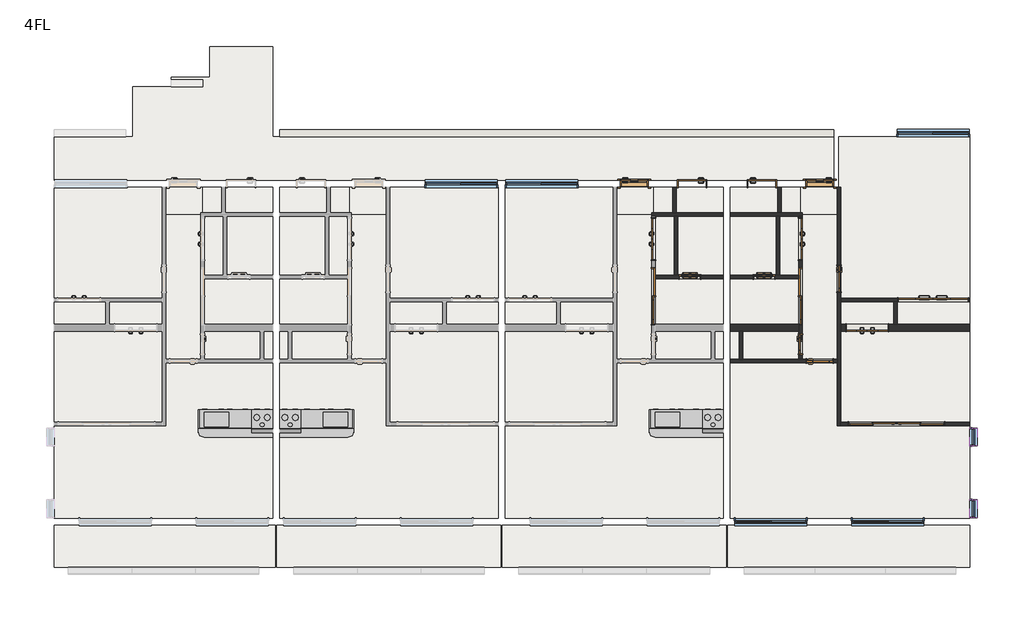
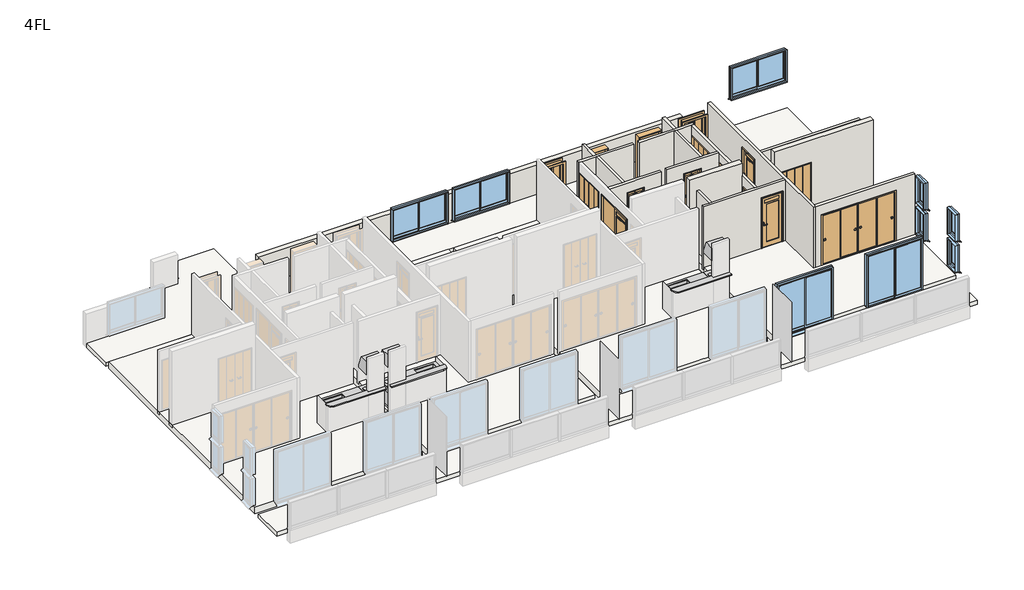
# One storey, part 3 of 3: 18 walls, 16 doors, 14 slabs, 9 windows, 3 flow terminals, 3 furniture elements.
"""IFC4 building model written with IfcOpenShell, lengths in millimetres."""

from ifc_helpers import new_model, si_unit, frame, origin, place, context, project, spatial, polyline, outline, extrude, faceted_brep, transform, mapped, element, save
from components import door_800x2000_a7d1584b, door_800x2000_010bfebf, w1200h2000_6a144d60, w1200h2000_99d19fb3, w1200h2000_ebe1d490, w1600h2000_4c3c234a, w1600h2000_ca690e72, w2000h2000_5dbb6d6a, w2800h2000_04aa64cd, w600h2000_6a266bef, w600h2000_94bb9c3c, w600h2000_8ea70a65, w800h2000_1d97c4d4, w800h2000_13e9f519, w800h2000_ccb03061, w800h2000_0ab7d42c, flow_terminal_5276808d, flow_terminal_b13850ba, furniture_3a0496f9, furniture_dadabe7c, window_2000x1200_fc91d1cf, window_2000x2000_f1ff98da, window_450x1000_1cddc73c

model = new_model("IFC4")

# Units and contexts
model_context = context("Model", 3, world=origin())
ifc_project = project(units=[si_unit("LENGTHUNIT", "METRE", prefix="MILLI")], contexts=[model_context])

# Site, building, storey
site = spatial("IfcSite", under=ifc_project)
building = spatial("IfcBuilding", under=site)
storey = spatial("IfcBuildingStorey", under=building, Name="4FL", Elevation=10000.0)

# Doors
placement = place(None, origin())
door_800x2000_shape = door_800x2000_a7d1584b(model_context)
element("IfcDoor", 1, ObjectType="片開き3 : 800x2000", at=placement, inside=storey, context=model_context, shape_type="MappedRepresentation", body=[
    mapped(door_800x2000_shape, transform((5521.2812754, -5700.1171638, 10000.0), x_axis=(1.0, 0.0, 0.0), y_axis=(0.0, 1.0, 0.0), z_axis=(0.0, 0.0, 1.0))),
])
door_800x2000_2_shape = door_800x2000_010bfebf(model_context)
element("IfcDoor", 2, ObjectType="片開き3 : 800x2000", at=placement, inside=storey, context=model_context, shape_type="MappedRepresentation", body=[
    mapped(door_800x2000_2_shape, transform((10821.2812754, -5700.1171638, 10000.0), x_axis=(-1.0, 0.0, 0.0), y_axis=(0.0, -1.0, 0.0), z_axis=(0.0, 0.0, 1.0))),
])
w1200h2000_shape = w1200h2000_6a144d60(model_context)
element("IfcDoor", 3, ObjectType="木製折戸 : w1200h2000", at=placement, inside=storey, context=model_context, shape_type="MappedRepresentation", body=[
    mapped(w1200h2000_shape, transform((6071.2812754, -7280.1171638, 10100.0), x_axis=(0.0, 1.0, 0.0), y_axis=(-1.0, 0.0, 0.0), z_axis=(0.0, 0.0, 1.0))),
])
w1200h2000_2_shape = w1200h2000_99d19fb3(model_context)
element("IfcDoor", 4, ObjectType="木製折戸 : w1200h2000", at=placement, inside=storey, context=model_context, shape_type="MappedRepresentation", body=[
    mapped(w1200h2000_2_shape, transform((10271.2812754, -7280.1171638, 10100.0), x_axis=(0.0, 1.0, 0.0), y_axis=(-1.0, 0.0, 0.0), z_axis=(0.0, 0.0, 1.0))),
])
w1200h2000_3_shape = w1200h2000_ebe1d490(model_context)
element("IfcDoor", 5, ObjectType="木製折戸 : w1200h2000", at=placement, inside=storey, context=model_context, shape_type="MappedRepresentation", body=[
    mapped(w1200h2000_3_shape, transform((12183.7812754, -9820.1171638, 10100.0), x_axis=(1.0, 0.0, 0.0), y_axis=(0.0, 1.0, 0.0), z_axis=(0.0, 0.0, 1.0))),
])
w1600h2000_shape = w1600h2000_4c3c234a(model_context)
element("IfcDoor", 6, ObjectType="片引戸CL2017 : w1600h2000", at=placement, inside=storey, context=model_context, shape_type="MappedRepresentation", body=[
    mapped(w1600h2000_shape, transform((6071.2812754, -8920.1171638, 10100.0), x_axis=(0.0, -1.0, 0.0), y_axis=(1.0, 0.0, 0.0), z_axis=(0.0, 0.0, 1.0))),
])
w1600h2000_2_shape = w1600h2000_ca690e72(model_context)
element("IfcDoor", 7, ObjectType="片引戸CL2017 : w1600h2000", at=placement, inside=storey, context=model_context, shape_type="MappedRepresentation", body=[
    mapped(w1600h2000_2_shape, transform((10271.2812754, -8920.1171638, 10100.0), x_axis=(0.0, -1.0, 0.0), y_axis=(1.0, 0.0, 0.0), z_axis=(0.0, 0.0, 1.0))),
])
w2000h2000_shape = w2000h2000_5dbb6d6a(model_context)
element("IfcDoor", 8, ObjectType="木製折戸 : w2000h2000", at=placement, inside=storey, context=model_context, shape_type="MappedRepresentation", body=[
    mapped(w2000h2000_shape, transform((14066.2812754, -9020.1171638, 10100.0), x_axis=(-1.0, 0.0, 0.0), y_axis=(0.0, -1.0, 0.0), z_axis=(0.0, 0.0, 1.0))),
])
w2800h2000_shape = w2800h2000_04aa64cd(model_context)
element("IfcDoor", 9, ObjectType="引違い 4 枚 2 溝_襖 : w2800h2000", at=placement, inside=storey, context=model_context, shape_type="MappedRepresentation", body=[
    mapped(w2800h2000_shape, transform((13026.8167793, -12570.1171638, 10100.0), x_axis=(1.0, 0.0, 0.0), y_axis=(0.0, 1.0, 0.0), z_axis=(0.0, 0.0, 1.0))),
])
w600h2000_shape = w600h2000_6a266bef(model_context)
element("IfcDoor", 10, ObjectType="浴室折戸 : w600h2000", at=placement, inside=storey, context=model_context, shape_type="MappedRepresentation", body=[
    mapped(w600h2000_shape, transform((7111.2812754, -8370.1171638, 10100.0), x_axis=(1.0, 0.0, 0.0), y_axis=(0.0, 1.0, 0.0), z_axis=(0.0, 0.0, 1.0))),
])
w600h2000_2_shape = w600h2000_94bb9c3c(model_context)
element("IfcDoor", 11, ObjectType="浴室折戸 : w600h2000", at=placement, inside=storey, context=model_context, shape_type="MappedRepresentation", body=[
    mapped(w600h2000_2_shape, transform((9231.2812754, -8370.1171638, 10100.0), x_axis=(-1.0, 0.0, 0.0), y_axis=(0.0, -1.0, 0.0), z_axis=(0.0, 0.0, 1.0))),
])
w600h2000_3_shape = w600h2000_8ea70a65(model_context)
element("IfcDoor", 12, ObjectType="片開戸CL2058 : w600h2000", at=placement, inside=storey, context=model_context, shape_type="MappedRepresentation", body=[
    mapped(w600h2000_3_shape, transform((10271.2812754, -10295.1171638, 10100.0), x_axis=(0.0, -1.0, 0.0), y_axis=(1.0, 0.0, 0.0), z_axis=(0.0, 0.0, 1.0))),
])
w800h2000_shape = w800h2000_1d97c4d4(model_context)
element("IfcDoor", 13, ObjectType="片開 : w800h2000", at=placement, inside=storey, context=model_context, shape_type="MappedRepresentation", body=[
    mapped(w800h2000_shape, transform((7171.2812754, -5700.1171638, 10000.0), x_axis=(-1.0, 0.0, 0.0), y_axis=(0.0, -1.0, 0.0), z_axis=(0.0, 0.0, 1.0))),
])
w800h2000_2_shape = w800h2000_13e9f519(model_context)
element("IfcDoor", 14, ObjectType="片開戸CL2058 : w800h2000", at=placement, inside=storey, context=model_context, shape_type="MappedRepresentation", body=[
    mapped(w800h2000_2_shape, transform((10821.2812754, -10770.1171638, 10100.0), x_axis=(1.0, 0.0, 0.0), y_axis=(0.0, 1.0, 0.0), z_axis=(0.0, 0.0, 1.0))),
])
w800h2000_3_shape = w800h2000_ccb03061(model_context)
element("IfcDoor", 15, ObjectType="片開戸CL2058 : w800h2000", at=placement, inside=storey, context=model_context, shape_type="MappedRepresentation", body=[
    mapped(w800h2000_3_shape, transform((11371.2812754, -8420.1171638, 10100.0), x_axis=(0.0, -1.0, 0.0), y_axis=(1.0, 0.0, 0.0), z_axis=(0.0, 0.0, 1.0))),
])
w800h2000_4_shape = w800h2000_0ab7d42c(model_context)
element("IfcDoor", 16, ObjectType="片開 : w800h2000", at=placement, inside=storey, context=model_context, shape_type="MappedRepresentation", body=[
    mapped(w800h2000_4_shape, transform((9171.2812754, -5700.1171638, 10000.0), x_axis=(1.0, 0.0, 0.0), y_axis=(0.0, 1.0, 0.0), z_axis=(0.0, 0.0, 1.0))),
])

# Flow terminals
flow_terminal_shape = flow_terminal_5276808d(model_context)
element("IfcFlowTerminal", 17, ObjectType="システムキッチンIH : システムキッチンIH", at=placement, inside=storey, context=model_context, shape_type="MappedRepresentation", body=[
    mapped(flow_terminal_shape, transform((-4828.7187246, -12720.1171638, 10200.0), x_axis=(1.0, 0.0, 0.0), y_axis=(0.0, 1.0, 0.0), z_axis=(0.0, 0.0, 1.0))),
])
element("IfcFlowTerminal", 18, ObjectType="システムキッチンIH : システムキッチンIH", at=placement, inside=storey, context=model_context, shape_type="MappedRepresentation", body=[
    mapped(flow_terminal_shape, transform((8071.2812754, -12720.1171638, 10200.0), x_axis=(1.0, 0.0, 0.0), y_axis=(0.0, 1.0, 0.0), z_axis=(0.0, 0.0, 1.0))),
])
flow_terminal_2_shape = flow_terminal_b13850ba(model_context)
element("IfcFlowTerminal", 19, ObjectType="システムキッチンIH : システムキッチンIH", at=placement, inside=storey, context=model_context, shape_type="MappedRepresentation", body=[
    mapped(flow_terminal_2_shape, transform((-4628.7187246, -12720.1171638, 10200.0), x_axis=(-1.0, 0.0, 0.0), y_axis=(0.0, -1.0, 0.0), z_axis=(0.0, 0.0, 1.0))),
])

# Furniture
furniture_shape = furniture_3a0496f9(model_context)
element("IfcFurniture", 20, ObjectType="キッチンカウンター : キッチンカウンター", at=placement, inside=storey, context=model_context, shape_type="MappedRepresentation", body=[
    mapped(furniture_shape, transform((-4628.7187246, -12820.1171638, 10100.0), x_axis=(-1.0, 0.0, 0.0), y_axis=(0.0, -1.0, 0.0), z_axis=(0.0, 0.0, 1.0))),
])
furniture_2_shape = furniture_dadabe7c(model_context)
element("IfcFurniture", 21, ObjectType="キッチンカウンター : キッチンカウンター", at=placement, inside=storey, context=model_context, shape_type="MappedRepresentation", body=[
    mapped(furniture_2_shape, transform((-4828.7187246, -12820.1171638, 10100.0), x_axis=(1.0, 0.0, 0.0), y_axis=(0.0, 1.0, 0.0), z_axis=(0.0, 0.0, 1.0))),
])
element("IfcFurniture", 22, ObjectType="キッチンカウンター : キッチンカウンター", at=placement, inside=storey, context=model_context, shape_type="MappedRepresentation", body=[
    mapped(furniture_2_shape, transform((8071.2812754, -12820.1171638, 10100.0), x_axis=(1.0, 0.0, 0.0), y_axis=(0.0, 1.0, 0.0), z_axis=(0.0, 0.0, 1.0))),
])

# Slabs
element("IfcSlab", 23, ObjectType="RC150＋100", at=placement, inside=storey, context=model_context, shape_type="SweptSolid", body=[
    extrude(outline(polyline([(-4828.7187246, -15270.1171638), (-11078.7187246, -15270.1171638), (-11078.7187246, -5800.1171638), (-7928.7187246, -5800.1171638), (-7928.7187246, -6580.1171638), (-6828.7187246, -6580.1171638), (-6828.7187246, -5800.1171638), (-4828.7187246, -5800.1171638), (-4828.7187246, -6580.1171638), (-6188.7187246, -6580.1171638), (-6188.7187246, -8370.1171638), (-4828.7187246, -8370.1171638), (-4828.7187246, -15270.1171638)])), frame((0.0, 0.0, 9850.0), z_axis=(0.0, 0.0, 1.0), x_axis=(1.0, 0.0, 0.0)), (0.0, 0.0, 1.0), 250.0),
])
element("IfcSlab", 24, ObjectType="RC150＋100", at=placement, inside=storey, context=model_context, shape_type="SweptSolid", body=[
    extrude(outline(polyline([(-4628.7187246, -15270.1171638), (-4628.7187246, -8370.1171638), (-3268.7187246, -8370.1171638), (-3268.7187246, -6580.1171638), (-4628.7187246, -6580.1171638), (-4628.7187246, -5800.1171638), (-2628.7187246, -5800.1171638), (-2628.7187246, -6580.1171638), (-1528.7187246, -6580.1171638), (-1528.7187246, -5800.1171638), (1621.2812754, -5800.1171638), (1621.2812754, -15270.1171638), (-4628.7187246, -15270.1171638)])), frame((0.0, 0.0, 9850.0), z_axis=(0.0, 0.0, 1.0), x_axis=(1.0, 0.0, 0.0)), (0.0, 0.0, 1.0), 250.0),
])
element("IfcSlab", 25, ObjectType="RC150＋100", at=placement, inside=storey, context=model_context, shape_type="SweptSolid", body=[
    extrude(outline(polyline([(8071.2812754, -15270.1171638), (1821.2812754, -15270.1171638), (1821.2812754, -5800.1171638), (4971.2812754, -5800.1171638), (4971.2812754, -6580.1171638), (6071.2812754, -6580.1171638), (6071.2812754, -5800.1171638), (8071.2812754, -5800.1171638), (8071.2812754, -6580.1171638), (6711.2812754, -6580.1171638), (6711.2812754, -8370.1171638), (8071.2812754, -8370.1171638), (8071.2812754, -15270.1171638)])), frame((0.0, 0.0, 9850.0), z_axis=(0.0, 0.0, 1.0), x_axis=(1.0, 0.0, 0.0)), (0.0, 0.0, 1.0), 250.0),
])
element("IfcSlab", 26, ObjectType="RC150＋100", at=placement, inside=storey, context=model_context, shape_type="SweptSolid", body=[
    extrude(outline(polyline([(8271.2812754, -15270.1171638), (8271.2812754, -8370.1171638), (9631.2812754, -8370.1171638), (9631.2812754, -6580.1171638), (8271.2812754, -6580.1171638), (8271.2812754, -5800.1171638), (10271.2812754, -5800.1171638), (10271.2812754, -6580.1171638), (11371.2812754, -6580.1171638), (11371.2812754, -4350.1171638), (15121.2812754, -4350.1171638), (15121.2812754, -15270.1171638), (8271.2812754, -15270.1171638)])), frame((0.0, 0.0, 9850.0), z_axis=(0.0, 0.0, 1.0), x_axis=(1.0, 0.0, 0.0)), (0.0, 0.0, 1.0), 250.0),
])
element("IfcSlab", 27, ObjectType="RC150", at=placement, inside=storey, context=model_context, shape_type="SweptSolid", body=[
    extrude(outline(polyline([(-4828.7187246, -8370.1171638), (-6188.7187246, -8370.1171638), (-6188.7187246, -6580.1171638), (-4828.7187246, -6580.1171638), (-4828.7187246, -8370.1171638)])), frame((0.0, 0.0, 9850.0), z_axis=(0.0, 0.0, 1.0), x_axis=(1.0, 0.0, 0.0)), (0.0, 0.0, 1.0), 150.0),
])
element("IfcSlab", 28, ObjectType="RC150", at=placement, inside=storey, context=model_context, shape_type="SweptSolid", body=[
    extrude(outline(polyline([(-6828.7187246, -6580.1171638), (-7928.7187246, -6580.1171638), (-7928.7187246, -5800.1171638), (-6828.7187246, -5800.1171638), (-6828.7187246, -6580.1171638)])), frame((0.0, 0.0, 9800.0), z_axis=(0.0, 0.0, 1.0), x_axis=(1.0, 0.0, 0.0)), (0.0, 0.0, 1.0), 150.0),
])
element("IfcSlab", 29, ObjectType="RC150", at=placement, inside=storey, context=model_context, shape_type="SweptSolid", body=[
    extrude(outline(polyline([(-4628.7187246, -8370.1171638), (-4628.7187246, -6580.1171638), (-3268.7187246, -6580.1171638), (-3268.7187246, -8370.1171638), (-4628.7187246, -8370.1171638)])), frame((0.0, 0.0, 9850.0), z_axis=(0.0, 0.0, 1.0), x_axis=(1.0, 0.0, 0.0)), (0.0, 0.0, 1.0), 150.0),
])
element("IfcSlab", 30, ObjectType="RC150", at=placement, inside=storey, context=model_context, shape_type="SweptSolid", body=[
    extrude(outline(polyline([(-2628.7187246, -6580.1171638), (-2628.7187246, -5800.1171638), (-1528.7187246, -5800.1171638), (-1528.7187246, -6580.1171638), (-2628.7187246, -6580.1171638)])), frame((0.0, 0.0, 9800.0), z_axis=(0.0, 0.0, 1.0), x_axis=(1.0, 0.0, 0.0)), (0.0, 0.0, 1.0), 150.0),
])
element("IfcSlab", 31, ObjectType="RC150", at=placement, inside=storey, context=model_context, shape_type="SweptSolid", body=[
    extrude(outline(polyline([(8071.2812754, -8370.1171638), (6711.2812754, -8370.1171638), (6711.2812754, -6580.1171638), (8071.2812754, -6580.1171638), (8071.2812754, -8370.1171638)])), frame((0.0, 0.0, 9850.0), z_axis=(0.0, 0.0, 1.0), x_axis=(1.0, 0.0, 0.0)), (0.0, 0.0, 1.0), 150.0),
])
element("IfcSlab", 32, ObjectType="RC150", at=placement, inside=storey, context=model_context, shape_type="SweptSolid", body=[
    extrude(outline(polyline([(6071.2812754, -6580.1171638), (4971.2812754, -6580.1171638), (4971.2812754, -5800.1171638), (6071.2812754, -5800.1171638), (6071.2812754, -6580.1171638)])), frame((0.0, 0.0, 9800.0), z_axis=(0.0, 0.0, 1.0), x_axis=(1.0, 0.0, 0.0)), (0.0, 0.0, 1.0), 150.0),
])
element("IfcSlab", 33, ObjectType="RC150", at=placement, inside=storey, context=model_context, shape_type="SweptSolid", body=[
    extrude(outline(polyline([(8271.2812754, -8370.1171638), (8271.2812754, -6580.1171638), (9631.2812754, -6580.1171638), (9631.2812754, -8370.1171638), (8271.2812754, -8370.1171638)])), frame((0.0, 0.0, 9850.0), z_axis=(0.0, 0.0, 1.0), x_axis=(1.0, 0.0, 0.0)), (0.0, 0.0, 1.0), 150.0),
])
element("IfcSlab", 34, ObjectType="RC150", at=placement, inside=storey, context=model_context, shape_type="SweptSolid", body=[
    extrude(outline(polyline([(10271.2812754, -6580.1171638), (10271.2812754, -5800.1171638), (11371.2812754, -5800.1171638), (11371.2812754, -6580.1171638), (10271.2812754, -6580.1171638)])), frame((0.0, 0.0, 9800.0), z_axis=(0.0, 0.0, 1.0), x_axis=(1.0, 0.0, 0.0)), (0.0, 0.0, 1.0), 150.0),
])
element("IfcSlab", 35, ObjectType="RC150", at=placement, inside=storey, context=model_context, shape_type="SweptSolid", body=[
    extrude(outline(polyline([(15121.2812754, -15470.1171638), (15121.2812754, -16670.1171638), (-11078.7187246, -16670.1171638), (-11078.7187246, -15470.1171638), (15121.2812754, -15470.1171638)])), frame((0.0, 0.0, 9800.0), z_axis=(0.0, 0.0, 1.0), x_axis=(1.0, 0.0, 0.0)), (0.0, 0.0, 1.0), 150.0),
])
element("IfcSlab", 36, ObjectType="RC150", at=placement, inside=storey, context=model_context, shape_type="SweptSolid", body=[
    extrude(outline(polyline([(-8828.7187246, -4350.1171638), (-8828.7187246, -2920.1171638), (-7728.7187246, -2920.1171638), (-7728.7187246, -2660.1171638), (-6628.7187246, -2660.1171638), (-6628.7187246, -1775.1171638), (-4828.7187246, -1775.1171638), (-4828.7187246, -4350.1171638), (11221.2812754, -4350.1171638), (11221.2812754, -5600.1171638), (-11078.7187246, -5600.1171638), (-11078.7187246, -4350.1171638), (-8828.7187246, -4350.1171638)])), frame((0.0, 0.0, 9800.0), z_axis=(0.0, 0.0, 1.0), x_axis=(1.0, 0.0, 0.0)), (0.0, 0.0, 1.0), 150.0),
])

# Walls
element("IfcWall", 37, ObjectType="(R)RC200", at=placement, inside=storey, context=model_context, shape_type="Brep", body=[
    faceted_brep([(15121.2812754, -9720.1171638, 10000.0), (13046.2812754, -9720.1171638, 10000.0), (12946.2812754, -9720.1171638, 10000.0), (11421.2812754, -9720.1171638, 10000.0), (11421.2812754, -9720.1171638, 13000.0), (15121.2812754, -9720.1171638, 13000.0), (12803.7812754, -9720.1171638, 12120.0), (11563.7812754, -9720.1171638, 12120.0), (11563.7812754, -9720.1171638, 10100.0), (12803.7812754, -9720.1171638, 10100.0), (15121.2812754, -9920.1171638, 10000.0), (15121.2812754, -9920.1171638, 13000.0), (11421.2812754, -9920.1171638, 13000.0), (11421.2812754, -9920.1171638, 10000.0), (12803.7812754, -9920.1171638, 12120.0), (12803.7812754, -9920.1171638, 10100.0), (11563.7812754, -9920.1171638, 10100.0), (11563.7812754, -9920.1171638, 12120.0)], [[[0, 1, 2, 3, 4, 5], [6, 7, 8, 9]], [[10, 11, 12, 13], [14, 15, 16, 17]], [[3, 2, 1, 0, 10, 13]], [[5, 4, 12, 11]], [[4, 3, 13, 12]], [[15, 14, 6, 9]], [[16, 15, 9, 8]], [[17, 16, 8, 7]], [[14, 17, 7, 6]], [[0, 5, 11, 10]]]),
])
element("IfcWall", 38, ObjectType="(R)RC200", at=placement, inside=storey, context=model_context, shape_type="Brep", body=[
    faceted_brep([(10221.2812754, -9720.1171638, 10000.0), (8271.2812754, -9720.1171638, 10000.0), (8271.2812754, -9720.1171638, 13000.0), (10221.2812754, -9720.1171638, 13000.0), (10221.2812754, -9920.1171638, 10000.0), (10221.2812754, -9920.1171638, 13000.0), (8271.2812754, -9920.1171638, 13000.0), (8271.2812754, -9920.1171638, 10000.0), (8521.2812754, -9920.1171638, 10000.0), (8621.2812754, -9920.1171638, 10000.0)], [[[0, 1, 2, 3]], [[4, 5, 6, 7, 8, 9]], [[1, 0, 4, 9, 8, 7]], [[3, 2, 6, 5]], [[0, 3, 5, 4]], [[2, 1, 7, 6]]]),
])
element("IfcWall", 39, ObjectType="(R)RC200", at=placement, inside=storey, context=model_context, shape_type="SweptSolid", body=[
    extrude(outline(polyline([(11221.2812754, -4350.1171638), (-4628.7187246, -4350.1171638), (-4628.7187246, -4150.1171638), (11221.2812754, -4150.1171638), (11221.2812754, -4350.1171638)])), frame((0.0, 0.0, 9800.0), z_axis=(0.0, 0.0, 1.0), x_axis=(1.0, 0.0, 0.0)), (0.0, 0.0, 1.0), 1300.0),
])
element("IfcWall", 40, ObjectType="(L1)LGS100", at=placement, inside=storey, context=model_context, shape_type="Brep", body=[
    faceted_brep([(6121.2812754, -8420.1171638, 10000.0), (8071.2812754, -8420.1171638, 10000.0), (8071.2812754, -8420.1171638, 12500.0), (6121.2812754, -8420.1171638, 12500.0), (7431.2812754, -8420.1171638, 12120.0), (7431.2812754, -8420.1171638, 10100.0), (6791.2812754, -8420.1171638, 10100.0), (6791.2812754, -8420.1171638, 12120.0), (6121.2812754, -8320.1171638, 10000.0), (6121.2812754, -8320.1171638, 12500.0), (6661.2812754, -8320.1171638, 12500.0), (6761.2812754, -8320.1171638, 12500.0), (8071.2812754, -8320.1171638, 12500.0), (8071.2812754, -8320.1171638, 10000.0), (6761.2812754, -8320.1171638, 10000.0), (6661.2812754, -8320.1171638, 10000.0), (7431.2812754, -8320.1171638, 12120.0), (6791.2812754, -8320.1171638, 12120.0), (6791.2812754, -8320.1171638, 10100.0), (7431.2812754, -8320.1171638, 10100.0)], [[[0, 1, 2, 3], [4, 5, 6, 7]], [[8, 9, 10, 11, 12, 13, 14, 15], [16, 17, 18, 19]], [[1, 0, 8, 15, 14, 13]], [[3, 2, 12, 11, 10, 9]], [[0, 3, 9, 8]], [[5, 4, 16, 19]], [[6, 5, 19, 18]], [[7, 6, 18, 17]], [[4, 7, 17, 16]], [[2, 1, 13, 12]]]),
])
element("IfcWall", 41, ObjectType="(L1)LGS100", at=placement, inside=storey, context=model_context, shape_type="Brep", body=[
    faceted_brep([(6021.2812754, -6630.1171638, 10000.0), (6121.2812754, -6630.1171638, 10000.0), (6661.2812754, -6630.1171638, 10000.0), (6761.2812754, -6630.1171638, 10000.0), (8071.2812754, -6630.1171638, 10000.0), (8071.2812754, -6630.1171638, 12500.0), (6761.2812754, -6630.1171638, 12500.0), (6661.2812754, -6630.1171638, 12500.0), (6121.2812754, -6630.1171638, 12500.0), (6021.2812754, -6630.1171638, 12500.0), (6021.2812754, -6530.1171638, 10000.0), (6021.2812754, -6530.1171638, 12500.0), (6621.2812754, -6530.1171638, 12500.0), (6721.2812754, -6530.1171638, 12500.0), (8071.2812754, -6530.1171638, 12500.0), (8071.2812754, -6530.1171638, 10000.0), (6721.2812754, -6530.1171638, 10000.0), (6621.2812754, -6530.1171638, 10000.0)], [[[0, 1, 2, 3, 4, 5, 6, 7, 8, 9]], [[10, 11, 12, 13, 14, 15, 16, 17]], [[4, 3, 2, 1, 0, 10, 17, 16, 15]], [[9, 8, 7, 6, 5, 14, 13, 12, 11]], [[0, 9, 11, 10]], [[5, 4, 15, 14]]]),
])
element("IfcWall", 42, ObjectType="(L1)LGS100", at=placement, inside=storey, context=model_context, shape_type="SweptSolid", body=[
    extrude(outline(polyline([(6721.2812754, -5800.1171638), (6721.2812754, -6530.1171638), (6621.2812754, -6530.1171638), (6621.2812754, -5800.1171638), (6721.2812754, -5800.1171638)])), frame((0.0, 0.0, 10000.0), z_axis=(0.0, 0.0, 1.0), x_axis=(1.0, 0.0, 0.0)), (0.0, 0.0, 1.0), 2500.0),
])
element("IfcWall", 43, ObjectType="(L1)LGS100", at=placement, inside=storey, context=model_context, shape_type="SweptSolid", body=[
    extrude(outline(polyline([(6761.2812754, -6630.1171638), (6761.2812754, -8320.1171638), (6661.2812754, -8320.1171638), (6661.2812754, -6630.1171638), (6761.2812754, -6630.1171638)])), frame((0.0, 0.0, 10000.0), z_axis=(0.0, 0.0, 1.0), x_axis=(1.0, 0.0, 0.0)), (0.0, 0.0, 1.0), 2500.0),
])
element("IfcWall", 44, ObjectType="(L1)LGS100", at=placement, inside=storey, context=model_context, shape_type="Brep", body=[
    faceted_brep([(15121.2812754, -8970.1171638, 10000.0), (11421.2812754, -8970.1171638, 10000.0), (11421.2812754, -8970.1171638, 12500.0), (15121.2812754, -8970.1171638, 12500.0), (13046.2812754, -8970.1171638, 12120.0), (13046.2812754, -8970.1171638, 10100.0), (15086.2812754, -8970.1171638, 10100.0), (15086.2812754, -8970.1171638, 12120.0), (11421.2812754, -9070.1171638, 10000.0), (12946.2812754, -9070.1171638, 10000.0), (13046.2812754, -9070.1171638, 10000.0), (15121.2812754, -9070.1171638, 10000.0), (15121.2812754, -9070.1171638, 12500.0), (13046.2812754, -9070.1171638, 12500.0), (12946.2812754, -9070.1171638, 12500.0), (11421.2812754, -9070.1171638, 12500.0), (13046.2812754, -9070.1171638, 10100.0), (13046.2812754, -9070.1171638, 12120.0), (15086.2812754, -9070.1171638, 12120.0), (15086.2812754, -9070.1171638, 10100.0)], [[[0, 1, 2, 3], [4, 5, 6, 7]], [[8, 9, 10, 11, 12, 13, 14, 15], [16, 17, 18, 19]], [[1, 0, 11, 10, 9, 8]], [[3, 2, 15, 14, 13, 12]], [[2, 1, 8, 15]], [[4, 17, 16, 5]], [[5, 16, 19, 6]], [[17, 4, 7, 18]], [[18, 7, 6, 19]], [[0, 3, 12, 11]]]),
])
element("IfcWall", 45, ObjectType="(L1)LGS100", at=placement, inside=storey, context=model_context, shape_type="Brep", body=[
    faceted_brep([(13046.2812754, -9720.1171638, 10000.0), (13046.2812754, -9070.1171638, 10000.0), (13046.2812754, -9070.1171638, 10100.0), (13046.2812754, -9070.1171638, 12120.0), (13046.2812754, -9070.1171638, 12500.0), (13046.2812754, -9720.1171638, 12500.0), (12946.2812754, -9720.1171638, 10000.0), (12946.2812754, -9720.1171638, 12500.0), (12946.2812754, -9070.1171638, 12500.0), (12946.2812754, -9070.1171638, 10000.0)], [[[0, 1, 2, 3, 4, 5]], [[6, 7, 8, 9]], [[1, 0, 6, 9]], [[5, 4, 8, 7]], [[0, 5, 7, 6]], [[4, 3, 2, 1, 9, 8]]]),
])
element("IfcWall", 46, ObjectType="(L1)LGS100", at=placement, inside=storey, context=model_context, shape_type="Brep", body=[
    faceted_brep([(11421.2812754, -12620.1171638, 10000.0), (11421.2812754, -12520.1171638, 10000.0), (11421.2812754, -9920.1171638, 10000.0), (11421.2812754, -9720.1171638, 10000.0), (11421.2812754, -9070.1171638, 10000.0), (11421.2812754, -8970.1171638, 10000.0), (11421.2812754, -5800.1171638, 10000.0), (11421.2812754, -5800.1171638, 12500.0), (11421.2812754, -8970.1171638, 12500.0), (11421.2812754, -9070.1171638, 12500.0), (11421.2812754, -12520.1171638, 12500.0), (11421.2812754, -12620.1171638, 12500.0), (11421.2812754, -8820.1171638, 10100.0), (11421.2812754, -8820.1171638, 12100.0), (11421.2812754, -8020.1171638, 12100.0), (11421.2812754, -8020.1171638, 10100.0), (11321.2812754, -12620.1171638, 10000.0), (11321.2812754, -12620.1171638, 12500.0), (11321.2812754, -10820.1171638, 12500.0), (11321.2812754, -10720.1171638, 12500.0), (11321.2812754, -5800.1171638, 12500.0), (11321.2812754, -5800.1171638, 10000.0), (11321.2812754, -10720.1171638, 10000.0), (11321.2812754, -10820.1171638, 10000.0), (11321.2812754, -8820.1171638, 10100.0), (11321.2812754, -8020.1171638, 10100.0), (11321.2812754, -8020.1171638, 12100.0), (11321.2812754, -8820.1171638, 12100.0)], [[[0, 1, 2, 3, 4, 5, 6, 7, 8, 9, 10, 11], [12, 13, 14, 15]], [[16, 17, 18, 19, 20, 21, 22, 23], [24, 25, 26, 27]], [[6, 5, 4, 3, 2, 1, 0, 16, 23, 22, 21]], [[11, 10, 9, 8, 7, 20, 19, 18, 17]], [[0, 11, 17, 16]], [[13, 12, 24, 27]], [[14, 13, 27, 26]], [[15, 14, 26, 25]], [[12, 15, 25, 24]], [[7, 6, 21, 20]]]),
])
element("IfcWall", 47, ObjectType="(L1)LGS100", at=placement, inside=storey, context=model_context, shape_type="Brep", body=[
    faceted_brep([(10221.2812754, -8320.1171638, 10000.0), (9681.2812754, -8320.1171638, 10000.0), (9581.2812754, -8320.1171638, 10000.0), (8271.2812754, -8320.1171638, 10000.0), (8271.2812754, -8320.1171638, 12500.0), (9581.2812754, -8320.1171638, 12500.0), (9681.2812754, -8320.1171638, 12500.0), (10221.2812754, -8320.1171638, 12500.0), (8911.2812754, -8320.1171638, 12120.0), (8911.2812754, -8320.1171638, 10100.0), (9551.2812754, -8320.1171638, 10100.0), (9551.2812754, -8320.1171638, 12120.0), (10221.2812754, -8420.1171638, 10000.0), (10221.2812754, -8420.1171638, 12500.0), (8271.2812754, -8420.1171638, 12500.0), (8271.2812754, -8420.1171638, 10000.0), (8911.2812754, -8420.1171638, 12120.0), (9551.2812754, -8420.1171638, 12120.0), (9551.2812754, -8420.1171638, 10100.0), (8911.2812754, -8420.1171638, 10100.0)], [[[0, 1, 2, 3, 4, 5, 6, 7], [8, 9, 10, 11]], [[12, 13, 14, 15], [16, 17, 18, 19]], [[3, 2, 1, 0, 12, 15]], [[7, 6, 5, 4, 14, 13]], [[0, 7, 13, 12]], [[9, 8, 16, 19]], [[10, 9, 19, 18]], [[11, 10, 18, 17]], [[8, 11, 17, 16]], [[4, 3, 15, 14]]]),
])
element("IfcWall", 48, ObjectType="(L1)LGS100", at=placement, inside=storey, context=model_context, shape_type="Brep", body=[
    faceted_brep([(10321.2812754, -10720.1171638, 10000.0), (10321.2812754, -6630.1171638, 10000.0), (10321.2812754, -6630.1171638, 12500.0), (10321.2812754, -10720.1171638, 12500.0), (10321.2812754, -10595.1171638, 10100.0), (10321.2812754, -10595.1171638, 12100.0), (10321.2812754, -9995.1171638, 12100.0), (10321.2812754, -9995.1171638, 10100.0), (10321.2812754, -6660.1171638, 10100.0), (10321.2812754, -7900.1171638, 10100.0), (10321.2812754, -7900.1171638, 12120.0), (10321.2812754, -6660.1171638, 12120.0), (10321.2812754, -9745.1171638, 10100.0), (10321.2812754, -9745.1171638, 12140.0), (10321.2812754, -8095.1171638, 12140.0), (10321.2812754, -8095.1171638, 10100.0), (10221.2812754, -6630.1171638, 10000.0), (10221.2812754, -8320.1171638, 10000.0), (10221.2812754, -8420.1171638, 10000.0), (10221.2812754, -9720.1171638, 10000.0), (10221.2812754, -9920.1171638, 10000.0), (10221.2812754, -10720.1171638, 10000.0), (10221.2812754, -10720.1171638, 12500.0), (10221.2812754, -8420.1171638, 12500.0), (10221.2812754, -8320.1171638, 12500.0), (10221.2812754, -6630.1171638, 12500.0), (10221.2812754, -10595.1171638, 10100.0), (10221.2812754, -9995.1171638, 10100.0), (10221.2812754, -9995.1171638, 12100.0), (10221.2812754, -10595.1171638, 12100.0), (10221.2812754, -7900.1171638, 10100.0), (10221.2812754, -6660.1171638, 10100.0), (10221.2812754, -6660.1171638, 12120.0), (10221.2812754, -7900.1171638, 12120.0), (10221.2812754, -9745.1171638, 10100.0), (10221.2812754, -8095.1171638, 10100.0), (10221.2812754, -8095.1171638, 12140.0), (10221.2812754, -9745.1171638, 12140.0)], [[[0, 1, 2, 3], [4, 5, 6, 7], [8, 9, 10, 11], [12, 13, 14, 15]], [[16, 17, 18, 19, 20, 21, 22, 23, 24, 25], [26, 27, 28, 29], [30, 31, 32, 33], [34, 35, 36, 37]], [[1, 0, 21, 20, 19, 18, 17, 16]], [[3, 2, 25, 24, 23, 22]], [[0, 3, 22, 21]], [[2, 1, 16, 25]], [[5, 4, 26, 29]], [[6, 5, 29, 28]], [[7, 6, 28, 27]], [[4, 7, 27, 26]], [[8, 31, 30, 9]], [[9, 30, 33, 10]], [[10, 33, 32, 11]], [[13, 12, 34, 37]], [[14, 13, 37, 36]], [[15, 14, 36, 35]], [[12, 15, 35, 34]], [[31, 8, 11, 32]]]),
])
element("IfcWall", 49, ObjectType="(L1)LGS100", at=placement, inside=storey, context=model_context, shape_type="Brep", body=[
    faceted_brep([(10321.2812754, -6530.1171638, 10000.0), (9721.2812754, -6530.1171638, 10000.0), (9621.2812754, -6530.1171638, 10000.0), (8271.2812754, -6530.1171638, 10000.0), (8271.2812754, -6530.1171638, 12500.0), (9621.2812754, -6530.1171638, 12500.0), (9721.2812754, -6530.1171638, 12500.0), (10321.2812754, -6530.1171638, 12500.0), (10321.2812754, -6630.1171638, 10000.0), (10321.2812754, -6630.1171638, 12500.0), (10221.2812754, -6630.1171638, 12500.0), (9681.2812754, -6630.1171638, 12500.0), (9581.2812754, -6630.1171638, 12500.0), (8271.2812754, -6630.1171638, 12500.0), (8271.2812754, -6630.1171638, 10000.0), (9581.2812754, -6630.1171638, 10000.0), (9681.2812754, -6630.1171638, 10000.0), (10221.2812754, -6630.1171638, 10000.0)], [[[0, 1, 2, 3, 4, 5, 6, 7]], [[8, 9, 10, 11, 12, 13, 14, 15, 16, 17]], [[3, 2, 1, 0, 8, 17, 16, 15, 14]], [[7, 6, 5, 4, 13, 12, 11, 10, 9]], [[0, 7, 9, 8]], [[4, 3, 14, 13]]]),
])
element("IfcWall", 50, ObjectType="(L1)LGS100", at=placement, inside=storey, context=model_context, shape_type="SweptSolid", body=[
    extrude(outline(polyline([(9721.2812754, -5800.1171638), (9721.2812754, -6530.1171638), (9621.2812754, -6530.1171638), (9621.2812754, -5800.1171638), (9721.2812754, -5800.1171638)])), frame((0.0, 0.0, 10000.0), z_axis=(0.0, 0.0, 1.0), x_axis=(1.0, 0.0, 0.0)), (0.0, 0.0, 1.0), 2500.0),
])
element("IfcWall", 51, ObjectType="(L1)LGS100", at=placement, inside=storey, context=model_context, shape_type="SweptSolid", body=[
    extrude(outline(polyline([(9681.2812754, -6630.1171638), (9681.2812754, -8320.1171638), (9581.2812754, -8320.1171638), (9581.2812754, -6630.1171638), (9681.2812754, -6630.1171638)])), frame((0.0, 0.0, 10000.0), z_axis=(0.0, 0.0, 1.0), x_axis=(1.0, 0.0, 0.0)), (0.0, 0.0, 1.0), 2500.0),
])
element("IfcWall", 52, ObjectType="(L1)LGS100", at=placement, inside=storey, context=model_context, shape_type="SweptSolid", body=[
    extrude(outline(polyline([(8621.2812754, -9920.1171638), (8621.2812754, -10720.1171638), (8521.2812754, -10720.1171638), (8521.2812754, -9920.1171638), (8621.2812754, -9920.1171638)])), frame((0.0, 0.0, 10000.0), z_axis=(0.0, 0.0, 1.0), x_axis=(1.0, 0.0, 0.0)), (0.0, 0.0, 1.0), 2500.0),
])
element("IfcWall", 53, ObjectType="(L1)LGS100", at=placement, inside=storey, context=model_context, shape_type="Brep", body=[
    faceted_brep([(11321.2812754, -10720.1171638, 10000.0), (10321.2812754, -10720.1171638, 10000.0), (10221.2812754, -10720.1171638, 10000.0), (8621.2812754, -10720.1171638, 10000.0), (8521.2812754, -10720.1171638, 10000.0), (8271.2812754, -10720.1171638, 10000.0), (8271.2812754, -10720.1171638, 12500.0), (8521.2812754, -10720.1171638, 12500.0), (8621.2812754, -10720.1171638, 12500.0), (10221.2812754, -10720.1171638, 12500.0), (10321.2812754, -10720.1171638, 12500.0), (11321.2812754, -10720.1171638, 12500.0), (11221.2812754, -10720.1171638, 10100.0), (11221.2812754, -10720.1171638, 12100.0), (10421.2812754, -10720.1171638, 12100.0), (10421.2812754, -10720.1171638, 10100.0), (8271.2812754, -10820.1171638, 10000.0), (11321.2812754, -10820.1171638, 10000.0), (11321.2812754, -10820.1171638, 12500.0), (8271.2812754, -10820.1171638, 12500.0), (11221.2812754, -10820.1171638, 12100.0), (11221.2812754, -10820.1171638, 10100.0), (10421.2812754, -10820.1171638, 10100.0), (10421.2812754, -10820.1171638, 12100.0)], [[[0, 1, 2, 3, 4, 5, 6, 7, 8, 9, 10, 11], [12, 13, 14, 15]], [[16, 17, 18, 19], [20, 21, 22, 23]], [[5, 4, 3, 2, 1, 0, 17, 16]], [[11, 10, 9, 8, 7, 6, 19, 18]], [[0, 11, 18, 17]], [[12, 21, 20, 13]], [[13, 20, 23, 14]], [[14, 23, 22, 15]], [[21, 12, 15, 22]], [[6, 5, 16, 19]]]),
])
element("IfcWall", 54, ObjectType="(L1)LGS100", at=placement, inside=storey, context=model_context, shape_type="SweptSolid", body=[
    extrude(outline(polyline([(10000.0, 15121.2812754), (12500.0, 15121.2812754), (12500.0, 11421.2812754), (10000.0, 11421.2812754), (10000.0, 15121.2812754)]), holes=[polyline([(12100.0, 14421.2812754), (10100.0, 14421.2812754), (10100.0, 11621.2812754), (12100.0, 11621.2812754), (12100.0, 14421.2812754)])]), frame((0.0, -12620.1171638, 0.0), z_axis=(0.0, 1.0, 0.0), x_axis=(0.0, 0.0, 1.0)), (0.0, 0.0, 1.0), 100.0),
])

# Windows
window_2000x1200_shape = window_2000x1200_fc91d1cf(model_context)
element("IfcWindow", 55, ObjectType="鋼製_一般枠_引違い-二枚 : 2000x1200", at=placement, inside=storey, context=model_context, shape_type="MappedRepresentation", body=[
    mapped(window_2000x1200_shape, transform((571.2812754, -5700.1171638, 10250.0), x_axis=(1.0, 0.0, 0.0), y_axis=(0.0, 1.0, 0.0), z_axis=(0.0, 0.0, 1.0))),
])
element("IfcWindow", 56, ObjectType="鋼製_一般枠_引違い-二枚 : 2000x1200", at=placement, inside=storey, context=model_context, shape_type="MappedRepresentation", body=[
    mapped(window_2000x1200_shape, transform((2871.2812754, -5700.1171638, 10250.0), x_axis=(1.0, 0.0, 0.0), y_axis=(0.0, 1.0, 0.0), z_axis=(0.0, 0.0, 1.0))),
])
element("IfcWindow", 57, ObjectType="鋼製_一般枠_引違い-二枚 : 2000x1200", at=placement, inside=storey, context=model_context, shape_type="MappedRepresentation", body=[
    mapped(window_2000x1200_shape, transform((14071.2812754, -4250.1171638, 10250.0), x_axis=(1.0, 0.0, 0.0), y_axis=(0.0, 1.0, 0.0), z_axis=(0.0, 0.0, 1.0))),
])
window_2000x2000_shape = window_2000x2000_f1ff98da(model_context)
element("IfcWindow", 58, ObjectType="鋼製_一般枠_引違い-二枚 : 2000x2000", at=placement, inside=storey, context=model_context, shape_type="MappedRepresentation", body=[
    mapped(window_2000x2000_shape, transform((12771.2812754, -15370.1171638, 9200.0), x_axis=(-1.0, 0.0, 0.0), y_axis=(0.0, -1.0, 0.0), z_axis=(0.0, 0.0, 1.0))),
])
element("IfcWindow", 59, ObjectType="鋼製_一般枠_引違い-二枚 : 2000x2000", at=placement, inside=storey, context=model_context, shape_type="MappedRepresentation", body=[
    mapped(window_2000x2000_shape, transform((9421.2812754, -15370.1171638, 9200.0), x_axis=(-1.0, 0.0, 0.0), y_axis=(0.0, -1.0, 0.0), z_axis=(0.0, 0.0, 1.0))),
])
window_450x1000_shape = window_450x1000_1cddc73c(model_context)
element("IfcWindow", 60, ObjectType="鋼製_一般枠_嵌殺し : 450x1000", at=placement, inside=storey, context=model_context, shape_type="MappedRepresentation", body=[
    mapped(window_450x1000_shape, transform((15221.2812754, -14995.1171638, 9010.0), x_axis=(0.0, 1.0, 0.0), y_axis=(-1.0, 0.0, 0.0), z_axis=(0.0, 0.0, 1.0))),
])
element("IfcWindow", 61, ObjectType="鋼製_一般枠_嵌殺し : 450x1000", at=placement, inside=storey, context=model_context, shape_type="MappedRepresentation", body=[
    mapped(window_450x1000_shape, transform((15221.2812754, -12945.1171638, 9010.0), x_axis=(0.0, 1.0, 0.0), y_axis=(-1.0, 0.0, 0.0), z_axis=(0.0, 0.0, 1.0))),
])
element("IfcWindow", 62, ObjectType="鋼製_一般枠_嵌殺し : 450x1000", at=placement, inside=storey, context=model_context, shape_type="MappedRepresentation", body=[
    mapped(window_450x1000_shape, transform((15221.2812754, -14995.1171638, 10230.0), x_axis=(0.0, 1.0, 0.0), y_axis=(-1.0, 0.0, 0.0), z_axis=(0.0, 0.0, 1.0))),
])
element("IfcWindow", 63, ObjectType="鋼製_一般枠_嵌殺し : 450x1000", at=placement, inside=storey, context=model_context, shape_type="MappedRepresentation", body=[
    mapped(window_450x1000_shape, transform((15221.2812754, -12945.1171638, 10230.0), x_axis=(0.0, 1.0, 0.0), y_axis=(-1.0, 0.0, 0.0), z_axis=(0.0, 0.0, 1.0))),
])

save(model, "model.ifc")
